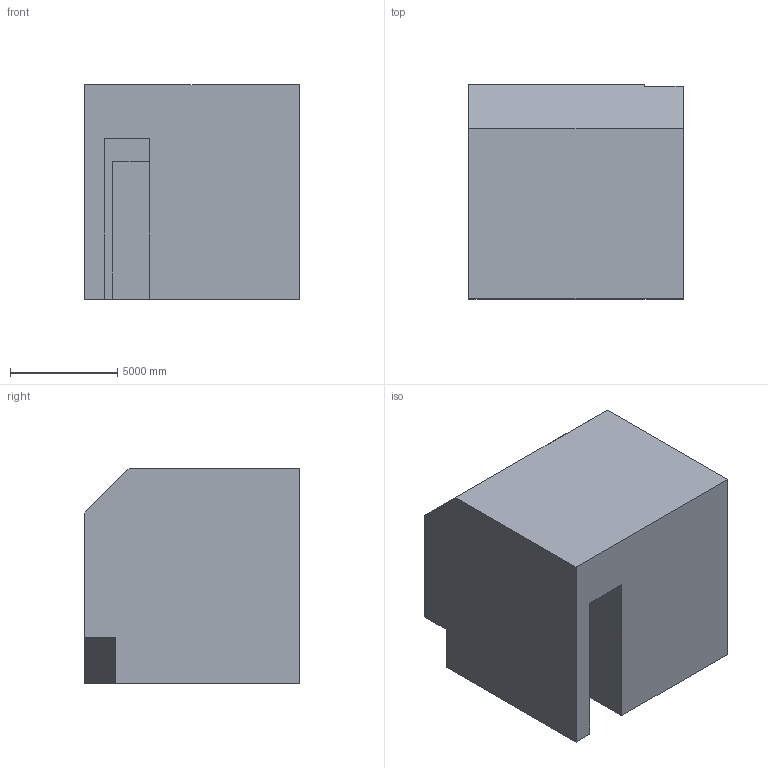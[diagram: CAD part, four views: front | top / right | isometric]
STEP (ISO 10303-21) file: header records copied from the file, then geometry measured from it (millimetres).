
FILE_DESCRIPTION (( 'STEP AP203' ), '1' );
FILE_NAME ('549.STEP', '2022-07-29T11:46:10', ( 'user' ), ( '' ), 'SwSTEP 2.0', 'SolidWorks 2021', '' );
FILE_SCHEMA (( 'CONFIG_CONTROL_DESIGN' ));
Length unit declared in the file: centimetre
Products named in the file (1): 549
Bounding box: 10000 x 10000 x 10000 mm (x, y, z)
Volume: 911430395158.1 mm3; surface area: 623998837.1 mm2
Topology: 1 solids, 1 shells, 25 faces, 63 edges, 42 vertices
Faces by surface type: plane 21, cylinder 4
Entity records: 822 total; most frequent: CARTESIAN_POINT 131, ORIENTED_EDGE 126, DIRECTION 123, EDGE_CURVE 63, LINE 55, VECTOR 55, VERTEX_POINT 42, AXIS2_PLACEMENT_3D 34
